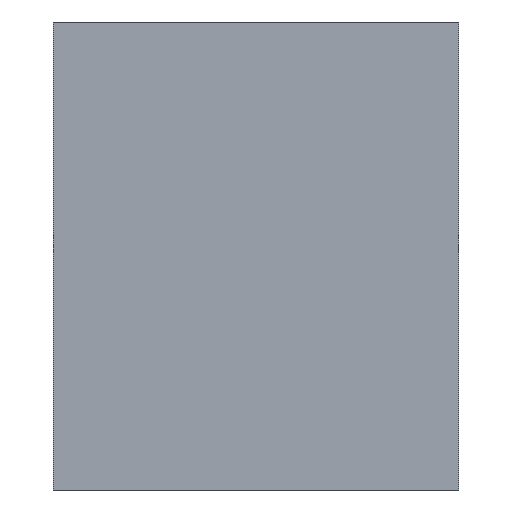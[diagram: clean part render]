
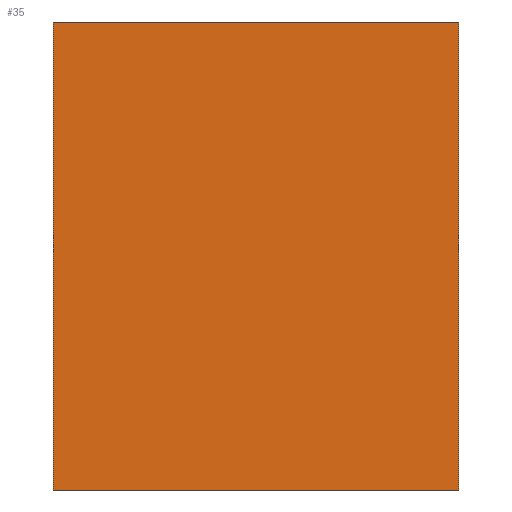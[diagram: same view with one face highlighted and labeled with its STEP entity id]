
A CAD part, left-side view. The second image highlights one B-rep face of the part: STEP entity #35.
In plain terms, the highlighted planar face has unit normal (-1, 0, 0).
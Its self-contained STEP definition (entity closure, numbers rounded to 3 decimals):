
#35 = ADVANCED_FACE('',(#36),#50,.F.);
#36 = FACE_BOUND('',#37,.F.);
#37 = EDGE_LOOP('',(#38,#73,#101,#129));
#38 = ORIENTED_EDGE('',*,*,#39,.F.);
#39 = EDGE_CURVE('',#40,#42,#44,.T.);
#40 = VERTEX_POINT('',#41);
#41 = CARTESIAN_POINT('',(0.,0.,0.));
#42 = VERTEX_POINT('',#43);
#43 = CARTESIAN_POINT('',(0.,0.,3.));
#44 = SURFACE_CURVE('',#45,(#49,#61),.PCURVE_S1.);
#45 = LINE('',#46,#47);
#46 = CARTESIAN_POINT('',(0.,0.,0.));
#47 = VECTOR('',#48,1.);
#48 = DIRECTION('',(0.,0.,1.));
#49 = PCURVE('',#50,#55);
#50 = PLANE('',#51);
#51 = AXIS2_PLACEMENT_3D('',#52,#53,#54);
#52 = CARTESIAN_POINT('',(0.,0.,0.));
#53 = DIRECTION('',(1.,0.,-0.));
#54 = DIRECTION('',(0.,0.,1.));
#55 = DEFINITIONAL_REPRESENTATION('',(#56),#60);
#56 = LINE('',#57,#58);
#57 = CARTESIAN_POINT('',(0.,0.));
#58 = VECTOR('',#59,1.);
#59 = DIRECTION('',(1.,0.));
#60 = ( GEOMETRIC_REPRESENTATION_CONTEXT(2) 
PARAMETRIC_REPRESENTATION_CONTEXT() REPRESENTATION_CONTEXT('2D SPACE',''
  ) );
#61 = PCURVE('',#62,#67);
#62 = PLANE('',#63);
#63 = AXIS2_PLACEMENT_3D('',#64,#65,#66);
#64 = CARTESIAN_POINT('',(0.,0.,0.));
#65 = DIRECTION('',(-0.,1.,0.));
#66 = DIRECTION('',(0.,0.,1.));
#67 = DEFINITIONAL_REPRESENTATION('',(#68),#72);
#68 = LINE('',#69,#70);
#69 = CARTESIAN_POINT('',(0.,0.));
#70 = VECTOR('',#71,1.);
#71 = DIRECTION('',(1.,0.));
#72 = ( GEOMETRIC_REPRESENTATION_CONTEXT(2) 
PARAMETRIC_REPRESENTATION_CONTEXT() REPRESENTATION_CONTEXT('2D SPACE',''
  ) );
#73 = ORIENTED_EDGE('',*,*,#74,.T.);
#74 = EDGE_CURVE('',#40,#75,#77,.T.);
#75 = VERTEX_POINT('',#76);
#76 = CARTESIAN_POINT('',(0.,2.6,0.));
#77 = SURFACE_CURVE('',#78,(#82,#89),.PCURVE_S1.);
#78 = LINE('',#79,#80);
#79 = CARTESIAN_POINT('',(0.,0.,0.));
#80 = VECTOR('',#81,1.);
#81 = DIRECTION('',(-0.,1.,0.));
#82 = PCURVE('',#50,#83);
#83 = DEFINITIONAL_REPRESENTATION('',(#84),#88);
#84 = LINE('',#85,#86);
#85 = CARTESIAN_POINT('',(0.,0.));
#86 = VECTOR('',#87,1.);
#87 = DIRECTION('',(0.,-1.));
#88 = ( GEOMETRIC_REPRESENTATION_CONTEXT(2) 
PARAMETRIC_REPRESENTATION_CONTEXT() REPRESENTATION_CONTEXT('2D SPACE',''
  ) );
#89 = PCURVE('',#90,#95);
#90 = PLANE('',#91);
#91 = AXIS2_PLACEMENT_3D('',#92,#93,#94);
#92 = CARTESIAN_POINT('',(0.,0.,0.));
#93 = DIRECTION('',(0.,0.,1.));
#94 = DIRECTION('',(1.,0.,-0.));
#95 = DEFINITIONAL_REPRESENTATION('',(#96),#100);
#96 = LINE('',#97,#98);
#97 = CARTESIAN_POINT('',(0.,0.));
#98 = VECTOR('',#99,1.);
#99 = DIRECTION('',(0.,1.));
#100 = ( GEOMETRIC_REPRESENTATION_CONTEXT(2) 
PARAMETRIC_REPRESENTATION_CONTEXT() REPRESENTATION_CONTEXT('2D SPACE',''
  ) );
#101 = ORIENTED_EDGE('',*,*,#102,.T.);
#102 = EDGE_CURVE('',#75,#103,#105,.T.);
#103 = VERTEX_POINT('',#104);
#104 = CARTESIAN_POINT('',(0.,2.6,3.));
#105 = SURFACE_CURVE('',#106,(#110,#117),.PCURVE_S1.);
#106 = LINE('',#107,#108);
#107 = CARTESIAN_POINT('',(0.,2.6,0.));
#108 = VECTOR('',#109,1.);
#109 = DIRECTION('',(0.,0.,1.));
#110 = PCURVE('',#50,#111);
#111 = DEFINITIONAL_REPRESENTATION('',(#112),#116);
#112 = LINE('',#113,#114);
#113 = CARTESIAN_POINT('',(0.,-2.6));
#114 = VECTOR('',#115,1.);
#115 = DIRECTION('',(1.,0.));
#116 = ( GEOMETRIC_REPRESENTATION_CONTEXT(2) 
PARAMETRIC_REPRESENTATION_CONTEXT() REPRESENTATION_CONTEXT('2D SPACE',''
  ) );
#117 = PCURVE('',#118,#123);
#118 = PLANE('',#119);
#119 = AXIS2_PLACEMENT_3D('',#120,#121,#122);
#120 = CARTESIAN_POINT('',(0.,2.6,0.));
#121 = DIRECTION('',(-0.,1.,0.));
#122 = DIRECTION('',(0.,0.,1.));
#123 = DEFINITIONAL_REPRESENTATION('',(#124),#128);
#124 = LINE('',#125,#126);
#125 = CARTESIAN_POINT('',(0.,0.));
#126 = VECTOR('',#127,1.);
#127 = DIRECTION('',(1.,0.));
#128 = ( GEOMETRIC_REPRESENTATION_CONTEXT(2) 
PARAMETRIC_REPRESENTATION_CONTEXT() REPRESENTATION_CONTEXT('2D SPACE',''
  ) );
#129 = ORIENTED_EDGE('',*,*,#130,.F.);
#130 = EDGE_CURVE('',#42,#103,#131,.T.);
#131 = SURFACE_CURVE('',#132,(#136,#143),.PCURVE_S1.);
#132 = LINE('',#133,#134);
#133 = CARTESIAN_POINT('',(0.,0.,3.));
#134 = VECTOR('',#135,1.);
#135 = DIRECTION('',(-0.,1.,0.));
#136 = PCURVE('',#50,#137);
#137 = DEFINITIONAL_REPRESENTATION('',(#138),#142);
#138 = LINE('',#139,#140);
#139 = CARTESIAN_POINT('',(3.,0.));
#140 = VECTOR('',#141,1.);
#141 = DIRECTION('',(0.,-1.));
#142 = ( GEOMETRIC_REPRESENTATION_CONTEXT(2) 
PARAMETRIC_REPRESENTATION_CONTEXT() REPRESENTATION_CONTEXT('2D SPACE',''
  ) );
#143 = PCURVE('',#144,#149);
#144 = PLANE('',#145);
#145 = AXIS2_PLACEMENT_3D('',#146,#147,#148);
#146 = CARTESIAN_POINT('',(0.,0.,3.));
#147 = DIRECTION('',(0.,0.,1.));
#148 = DIRECTION('',(1.,0.,-0.));
#149 = DEFINITIONAL_REPRESENTATION('',(#150),#154);
#150 = LINE('',#151,#152);
#151 = CARTESIAN_POINT('',(0.,0.));
#152 = VECTOR('',#153,1.);
#153 = DIRECTION('',(0.,1.));
#154 = ( GEOMETRIC_REPRESENTATION_CONTEXT(2) 
PARAMETRIC_REPRESENTATION_CONTEXT() REPRESENTATION_CONTEXT('2D SPACE',''
  ) );
